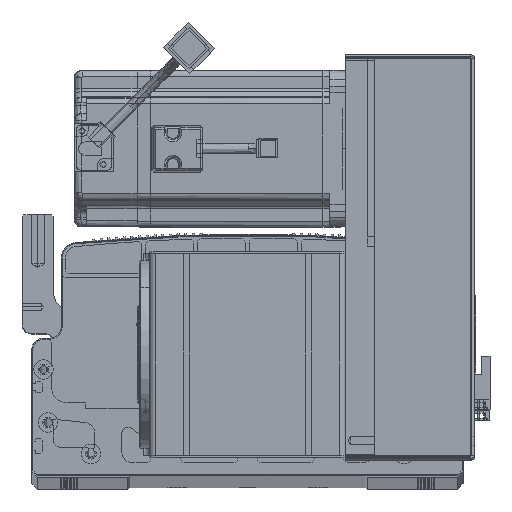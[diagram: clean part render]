
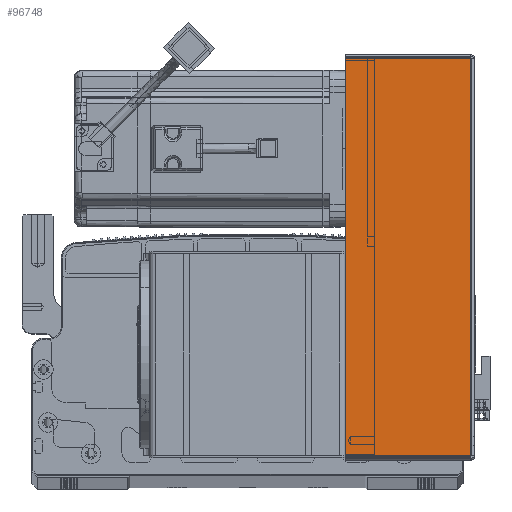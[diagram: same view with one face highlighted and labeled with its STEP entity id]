
A CAD part, top view. The second image highlights one B-rep face of the part: STEP entity #96748.
In plain terms, the highlighted planar face has unit normal (0, 0, 1) as drawn and (0, -1, 0) by its records, which use the part's own axes.
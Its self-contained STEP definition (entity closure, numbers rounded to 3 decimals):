
#401 = VECTOR ( 'NONE', #46940, 1000. ) ;
#2335 = CARTESIAN_POINT ( 'NONE',  ( 0., -1.5, 0. ) ) ;
#3640 = VECTOR ( 'NONE', #55244, 1000. ) ;
#4376 = DIRECTION ( 'NONE',  ( -1., 0., 0. ) ) ;
#5693 = LINE ( 'NONE', #42683, #34043 ) ;
#13696 = EDGE_LOOP ( 'NONE', ( #63041, #42161, #62385, #99191 ) ) ;
#14504 = CARTESIAN_POINT ( 'NONE',  ( 0.737, -1.5, -203.293 ) ) ;
#15250 = EDGE_CURVE ( 'NONE', #93368, #63411, #5693, .T. ) ;
#17026 = CARTESIAN_POINT ( 'NONE',  ( 0.737, -1.5, -0.707 ) ) ;
#17182 = DIRECTION ( 'NONE',  ( 0., 1., 0. ) ) ;
#34043 = VECTOR ( 'NONE', #65467, 1000. ) ;
#34930 = CARTESIAN_POINT ( 'NONE',  ( 64.5, -1.5, -203.293 ) ) ;
#37641 = CARTESIAN_POINT ( 'NONE',  ( 0., -1.5, -0.707 ) ) ;
#42161 = ORIENTED_EDGE ( 'NONE', *, *, #63858, .T. ) ;
#42683 = CARTESIAN_POINT ( 'NONE',  ( 0.737, -1.5, 0. ) ) ;
#44204 = EDGE_CURVE ( 'NONE', #63411, #44807, #99952, .T. ) ;
#44807 = VERTEX_POINT ( 'NONE', #82456 ) ;
#46940 = DIRECTION ( 'NONE',  ( 0., 0., 1. ) ) ;
#47326 = PLANE ( 'NONE',  #93579 ) ;
#55062 = EDGE_CURVE ( 'NONE', #99089, #44807, #85542, .T. ) ;
#55244 = DIRECTION ( 'NONE',  ( 1., 0., 0. ) ) ;
#62385 = ORIENTED_EDGE ( 'NONE', *, *, #55062, .T. ) ;
#63041 = ORIENTED_EDGE ( 'NONE', *, *, #15250, .F. ) ;
#63411 = VERTEX_POINT ( 'NONE', #17026 ) ;
#63786 = CARTESIAN_POINT ( 'NONE',  ( 64.5, -1.5, 0. ) ) ;
#63858 = EDGE_CURVE ( 'NONE', #93368, #99089, #69175, .T. ) ;
#65467 = DIRECTION ( 'NONE',  ( 0., 0., 1. ) ) ;
#69175 = LINE ( 'NONE', #92799, #79009 ) ;
#79009 = VECTOR ( 'NONE', #101140, 1000. ) ;
#82456 = CARTESIAN_POINT ( 'NONE',  ( 64.5, -1.5, -0.707 ) ) ;
#85542 = LINE ( 'NONE', #63786, #401 ) ;
#86724 = FACE_OUTER_BOUND ( 'NONE', #13696, .T. ) ;
#92799 = CARTESIAN_POINT ( 'NONE',  ( 0., -1.5, -203.293 ) ) ;
#93368 = VERTEX_POINT ( 'NONE', #14504 ) ;
#93579 = AXIS2_PLACEMENT_3D ( 'NONE', #2335, #17182, #4376 ) ;
#96748 = ADVANCED_FACE ( 'NONE', ( #86724 ), #47326, .F. ) ;
#99089 = VERTEX_POINT ( 'NONE', #34930 ) ;
#99191 = ORIENTED_EDGE ( 'NONE', *, *, #44204, .F. ) ;
#99952 = LINE ( 'NONE', #37641, #3640 ) ;
#101140 = DIRECTION ( 'NONE',  ( 1., 0., 0. ) ) ;
